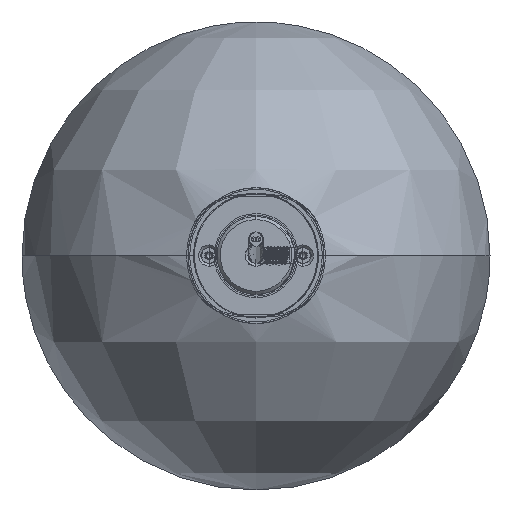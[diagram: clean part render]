
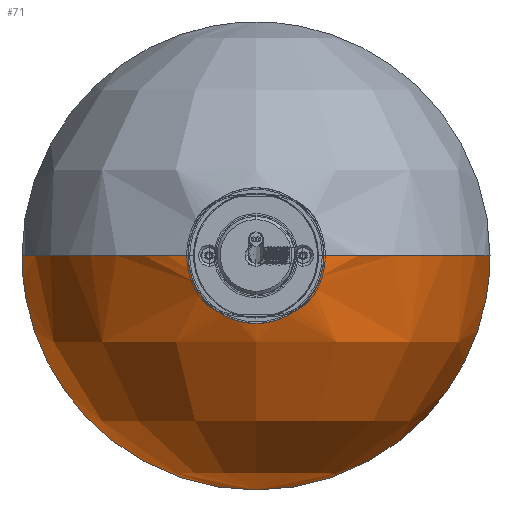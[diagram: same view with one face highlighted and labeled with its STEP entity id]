
A CAD part, top view. The second image highlights one B-rep face of the part: STEP entity #71.
In plain terms, the highlighted free-form (B-spline) face has degree [2, 2] with [5, 5] control points.
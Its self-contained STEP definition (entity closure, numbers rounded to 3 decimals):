
#71=ADVANCED_FACE('',(#271),#2848,.T.);
#271=FACE_OUTER_BOUND('',#472,.T.);
#472=EDGE_LOOP('',(#712,#713,#714,#715,#716));
#712=ORIENTED_EDGE('',*,*,#1624,.T.);
#713=ORIENTED_EDGE('',*,*,#1609,.F.);
#714=ORIENTED_EDGE('',*,*,#1614,.T.);
#715=ORIENTED_EDGE('',*,*,#1611,.F.);
#716=ORIENTED_EDGE('',*,*,#1615,.F.);
#1609=EDGE_CURVE('',#2519,#2525,#2254,.T.);
#1611=EDGE_CURVE('',#2521,#2518,#2256,.T.);
#1614=EDGE_CURVE('',#2519,#2518,#2259,.T.);
#1615=EDGE_CURVE('',#2522,#2521,#2260,.T.);
#1624=EDGE_CURVE('',#2522,#2525,#2269,.T.);
#2254=(
BOUNDED_CURVE()
B_SPLINE_CURVE(2,(#3409,#3410,#3411),.UNSPECIFIED.,.F.,.F.)
B_SPLINE_CURVE_WITH_KNOTS((3,3),(0.,96.265),.UNSPECIFIED.)
CURVE()
GEOMETRIC_REPRESENTATION_ITEM()
RATIONAL_B_SPLINE_CURVE((1.,0.801,1.))
REPRESENTATION_ITEM('')
);
#2256=(
BOUNDED_CURVE()
B_SPLINE_CURVE(2,(#3415,#3416,#3417),.UNSPECIFIED.,.F.,.F.)
B_SPLINE_CURVE_WITH_KNOTS((3,3),(117.81,214.074),
 .UNSPECIFIED.)
CURVE()
GEOMETRIC_REPRESENTATION_ITEM()
RATIONAL_B_SPLINE_CURVE((1.,0.801,1.))
REPRESENTATION_ITEM('')
);
#2259=(
BOUNDED_CURVE()
B_SPLINE_CURVE(2,(#3426,#3427,#3428,#3429,#3430),.UNSPECIFIED.,.F.,.F.)
B_SPLINE_CURVE_WITH_KNOTS((3,2,3),(-66.759,-33.379,
0.),.UNSPECIFIED.)
CURVE()
GEOMETRIC_REPRESENTATION_ITEM()
RATIONAL_B_SPLINE_CURVE((1.,0.707,1.,0.707,1.))
REPRESENTATION_ITEM('')
);
#2260=(
BOUNDED_CURVE()
B_SPLINE_CURVE(2,(#3431,#3432,#3433),.UNSPECIFIED.,.F.,.F.)
B_SPLINE_CURVE_WITH_KNOTS((3,3),(0.,117.81),.UNSPECIFIED.)
CURVE()
GEOMETRIC_REPRESENTATION_ITEM()
RATIONAL_B_SPLINE_CURVE((1.,0.707,1.))
REPRESENTATION_ITEM('')
);
#2269=(
BOUNDED_CURVE()
B_SPLINE_CURVE(2,(#3460,#3461,#3462),.UNSPECIFIED.,.F.,.F.)
B_SPLINE_CURVE_WITH_KNOTS((3,3),(0.,117.81),.UNSPECIFIED.)
CURVE()
GEOMETRIC_REPRESENTATION_ITEM()
RATIONAL_B_SPLINE_CURVE((1.,0.707,1.))
REPRESENTATION_ITEM('')
);
#2518=VERTEX_POINT('',#3374);
#2519=VERTEX_POINT('',#3375);
#2521=VERTEX_POINT('',#3377);
#2522=VERTEX_POINT('',#3378);
#2525=VERTEX_POINT('',#3381);
#2848=(
BOUNDED_SURFACE()
B_SPLINE_SURFACE(2,2,((#3196,#3197,#3198,#3199,#3200),(#3201,#3202,#3203,
#3204,#3205),(#3206,#3207,#3208,#3209,#3210),(#3211,#3212,#3213,#3214,#3215),
(#3216,#3217,#3218,#3219,#3220)),.UNSPECIFIED.,.F.,.F.,.F.)
B_SPLINE_SURFACE_WITH_KNOTS((3,2,3),(3,2,3),(0.,117.81,235.619),
(0.,117.81,235.619),.UNSPECIFIED.)
GEOMETRIC_REPRESENTATION_ITEM()
RATIONAL_B_SPLINE_SURFACE(((1.,0.707,1.,0.707,1.),
(0.707,0.5,0.707,0.5,0.707),(1.,0.707,
1.,0.707,1.),(0.707,0.5,0.707,0.5,0.707),
(1.,0.707,1.,0.707,1.)))
REPRESENTATION_ITEM('')
SURFACE()
);
#3196=CARTESIAN_POINT('',(0.,-75.,37.568));
#3197=CARTESIAN_POINT('',(-75.,-75.,37.568));
#3198=CARTESIAN_POINT('',(-75.,0.,37.568));
#3199=CARTESIAN_POINT('',(-75.,75.,37.568));
#3200=CARTESIAN_POINT('',(0.,75.,37.568));
#3201=CARTESIAN_POINT('',(0.,-75.,37.568));
#3202=CARTESIAN_POINT('',(-75.,-75.,112.568));
#3203=CARTESIAN_POINT('',(-75.,0.,112.568));
#3204=CARTESIAN_POINT('',(-75.,75.,112.568));
#3205=CARTESIAN_POINT('',(0.,75.,37.568));
#3206=CARTESIAN_POINT('',(0.,-75.,37.568));
#3207=CARTESIAN_POINT('',(0.,-75.,112.568));
#3208=CARTESIAN_POINT('',(0.,0.,112.568));
#3209=CARTESIAN_POINT('',(0.,75.,112.568));
#3210=CARTESIAN_POINT('',(0.,75.,37.568));
#3211=CARTESIAN_POINT('',(0.,-75.,37.568));
#3212=CARTESIAN_POINT('',(75.,-75.,112.568));
#3213=CARTESIAN_POINT('',(75.,0.,112.568));
#3214=CARTESIAN_POINT('',(75.,75.,112.568));
#3215=CARTESIAN_POINT('',(0.,75.,37.568));
#3216=CARTESIAN_POINT('',(0.,-75.,37.568));
#3217=CARTESIAN_POINT('',(75.,-75.,37.568));
#3218=CARTESIAN_POINT('',(75.,0.,37.568));
#3219=CARTESIAN_POINT('',(75.,75.,37.568));
#3220=CARTESIAN_POINT('',(0.,75.,37.568));
#3374=CARTESIAN_POINT('',(-21.25,0.,109.495));
#3375=CARTESIAN_POINT('',(21.25,0.,109.495));
#3377=CARTESIAN_POINT('',(-75.,0.,37.568));
#3378=CARTESIAN_POINT('',(0.,-75.,37.568));
#3381=CARTESIAN_POINT('',(75.,0.,37.568));
#3409=CARTESIAN_POINT('',(21.25,0.,109.495));
#3410=CARTESIAN_POINT('',(75.,0.,93.615));
#3411=CARTESIAN_POINT('',(75.,0.,37.568));
#3415=CARTESIAN_POINT('',(-75.,0.,37.568));
#3416=CARTESIAN_POINT('',(-75.,0.,93.615));
#3417=CARTESIAN_POINT('',(-21.25,0.,109.495));
#3426=CARTESIAN_POINT('',(21.25,0.,109.495));
#3427=CARTESIAN_POINT('',(21.25,-21.25,109.495));
#3428=CARTESIAN_POINT('',(0.,-21.25,109.495));
#3429=CARTESIAN_POINT('',(-21.25,-21.25,109.495));
#3430=CARTESIAN_POINT('',(-21.25,0.,109.495));
#3431=CARTESIAN_POINT('',(0.,-75.,37.568));
#3432=CARTESIAN_POINT('',(-75.,-75.,37.568));
#3433=CARTESIAN_POINT('',(-75.,0.,37.568));
#3460=CARTESIAN_POINT('',(0.,-75.,37.568));
#3461=CARTESIAN_POINT('',(75.,-75.,37.568));
#3462=CARTESIAN_POINT('',(75.,0.,37.568));
